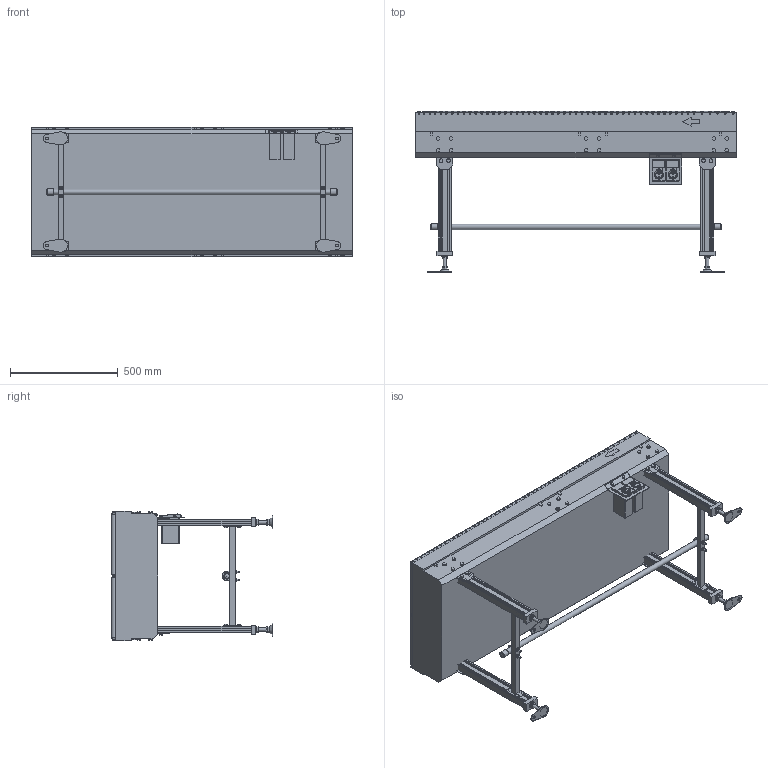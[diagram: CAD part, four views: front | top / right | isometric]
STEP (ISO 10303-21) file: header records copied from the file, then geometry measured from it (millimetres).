
FILE_DESCRIPTION (( 'STEP AP214' ), '1' );
FILE_NAME ('GA22-304x2-500-150-DC-7.5.STEP', '2024-08-08T23:11:34', ( '' ), ( '' ), 'SwSTEP 2.0', 'SolidWorks 2017', '' );
FILE_SCHEMA (( 'AUTOMOTIVE_DESIGN' ));
Length unit declared in the file: millimetre
Products named in the file (1): GA22-304x2-500-150-DC-7.5
Bounding box: 1490 x 750 x 604.09 mm (x, y, z)
Volume: 189871626 mm3; surface area: 5973190.3 mm2
Topology: 19 solids, 19 shells, 2519 faces, 6284 edges, 4166 vertices
Faces by surface type: plane 1758, cylinder 727, cone 18, torus 16
Full cylindrical faces by diameter (mm): 4.5 x8, 6 x106, 7 x4, 8 x212, 8.723 x8, 12.2 x2, 13 x4, 15.4 x40, 16 x8, 17 x12, 25.4 x1, 28.4 x2, 29.825 x2, 30 x4
Entity records: 71285 total; most frequent: CARTESIAN_POINT 14319, DIRECTION 11439, ORIENTED_EDGE 11234, EDGE_CURVE 5617, VERTEX_POINT 3938, AXIS2_PLACEMENT_3D 3824, LINE 3791, VECTOR 3791
